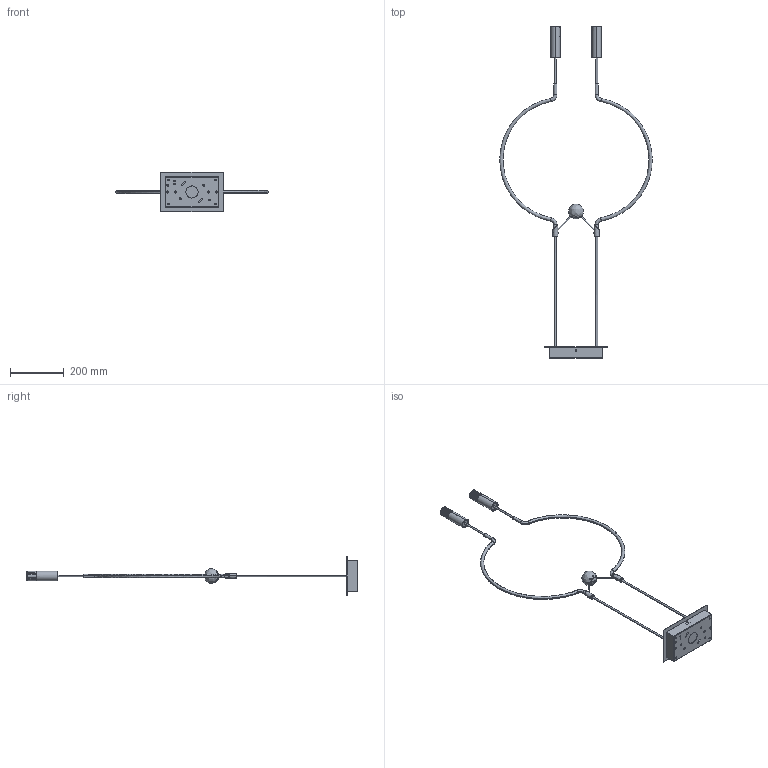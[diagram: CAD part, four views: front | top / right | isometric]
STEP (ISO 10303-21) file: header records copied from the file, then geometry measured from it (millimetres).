
FILE_DESCRIPTION (( 'STEP AP203' ), '1' );
FILE_NAME ('SPLIAIP2XXXXXXX.STEP', '2025-11-14T18:30:28', ( '' ), ( '' ), 'SwSTEP 2.0', 'SolidWorks 2024', '' );
FILE_SCHEMA (( 'CONFIG_CONTROL_DESIGN' ));
Length unit declared in the file: millimetre
Products named in the file (12): Faston Maschio ''A''_CONNETTORE AD INNESTO MASCHIO 45°_1.IGS; 1.0C.AXO01.LS04.01_2.IGS; SPLIAIP2XXXXLED-3D.IGS; O Rings_O RING Øi. 20.35 Sp. 1.78_2.IGS; 1.0C.AXO01.LS06.05_2.IGS; SPLIAIP2XXXXLED-PENDENTE.IGS; SPLIAIP2XXXXXXX; 1.0C.AXO01.LS04.02_2.IGS; 1.0C.AXO01.LS07.01_2.IGS; Viti Testa Cilindrica Cava Esagonale_VITE M4X20 TCCE_2.IGS; Dado Autoagganciante PS_DADO AUTOAGGANCIANTE PS M4_2.IGS; 1.0C.AXO01.LS07.02_2.IGS
Assembly tree (14 placements, depth 3):
  SPLIAIP2XXXXXXX
    SPLIAIP2XXXXLED-3D.IGS
      1.0C.AXO01.LS07.01_2.IGS
      1.0C.AXO01.LS07.02_2.IGS
      1.0C.AXO01.LS06.05_2.IGS  x2
      Dado Autoagganciante PS_DADO AUTOAGGANCIANTE PS M4_2.IGS  x2
      Faston Maschio ''A''_CONNETTORE AD INNESTO MASCHIO 45°_1.IGS
      SPLIAIP2XXXXLED-PENDENTE.IGS  x2
      1.0C.AXO01.LS04.01_2.IGS
      1.0C.AXO01.LS04.02_2.IGS
      O Rings_O RING Øi. 20.35 Sp. 1.78_2.IGS
      Viti Testa Cilindrica Cava Esagonale_VITE M4X20 TCCE_2.IGS
Bounding box: 564.82 x 1230.21 x 145 mm (x, y, z)
Volume: 429791.5 mm3; surface area: 414787.6 mm2
Topology: 39 solids, 39 shells, 720 faces, 1680 edges, 1045 vertices
Faces by surface type: bspline 720
Entity records: 27972 total; most frequent: CARTESIAN_POINT 19337, ORIENTED_EDGE 2422, EDGE_CURVE 1211, B_SPLINE_CURVE_WITH_KNOTS 820, VERTEX_POINT 761, EDGE_LOOP 628, FACE_OUTER_BOUND 526, ADVANCED_FACE 526
